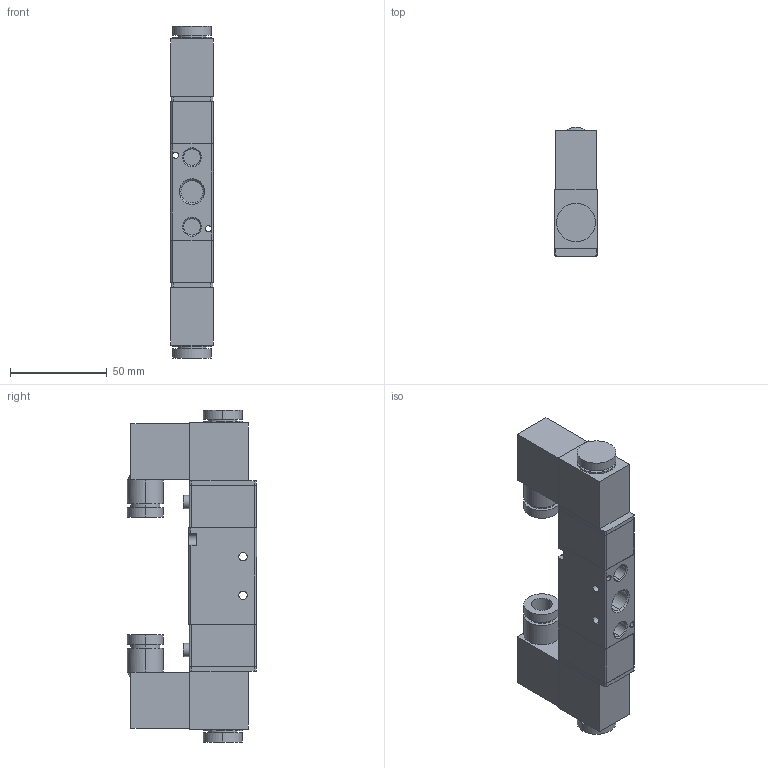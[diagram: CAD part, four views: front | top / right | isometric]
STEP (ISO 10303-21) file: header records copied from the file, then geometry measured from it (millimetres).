
FILE_DESCRIPTION (( 'STEP AP203' ), '1' );
FILE_NAME ('VB5-D02.STEP', '2020-04-15T17:00:27', ( '' ), ( '' ), 'SwSTEP 2.0', 'SolidWorks 2019', '' );
FILE_SCHEMA (( 'CONFIG_CONTROL_DESIGN' ));
Length unit declared in the file: millimetre
Products named in the file (1): VB5-D02
Bounding box: 22 x 66.8 x 171.8 mm (x, y, z)
Volume: 157164.1 mm3; surface area: 33111.1 mm2
Topology: 1 solids, 1 shells, 165 faces, 398 edges, 258 vertices
Faces by surface type: plane 79, cylinder 74, cone 12
Entity records: 5035 total; most frequent: CARTESIAN_POINT 928, DIRECTION 894, ORIENTED_EDGE 796, EDGE_CURVE 398, AXIS2_PLACEMENT_3D 334, VERTEX_POINT 258, LINE 226, VECTOR 226
